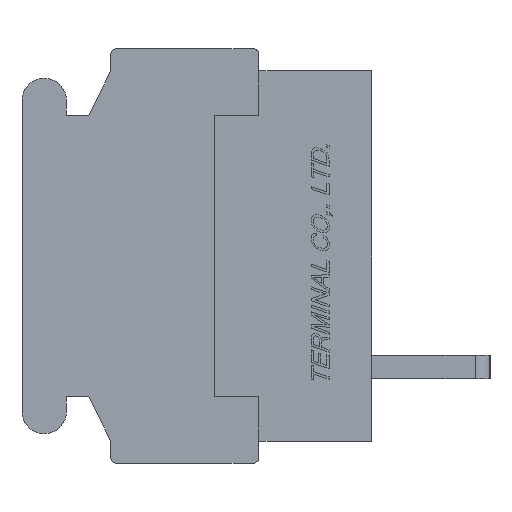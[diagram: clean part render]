
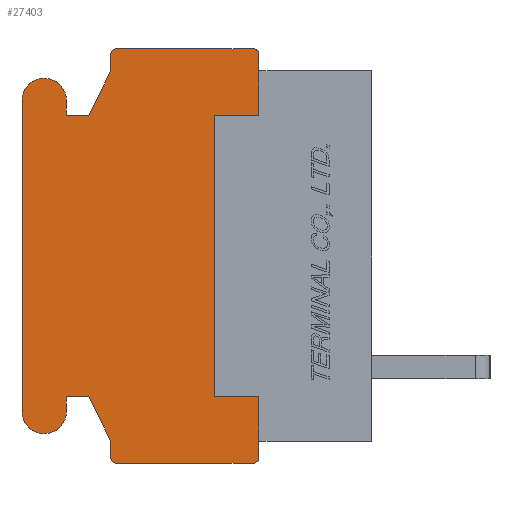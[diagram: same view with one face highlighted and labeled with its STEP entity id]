
A CAD part, left-side view. The second image highlights one B-rep face of the part: STEP entity #27403.
In plain terms, the highlighted planar face has unit normal (-1, 0, 0).
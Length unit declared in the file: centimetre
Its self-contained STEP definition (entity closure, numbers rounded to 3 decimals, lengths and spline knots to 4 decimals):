
#1448=CIRCLE('',#46495,0.02);
#1449=CIRCLE('',#46499,0.02);
#1450=CIRCLE('',#46502,0.02);
#1451=CIRCLE('',#46508,0.075);
#1452=CIRCLE('',#46511,0.075);
#1453=CIRCLE('',#46517,0.02);
#3842=VERTEX_POINT('',#43092);
#3843=VERTEX_POINT('',#43094);
#3844=VERTEX_POINT('',#43098);
#3845=VERTEX_POINT('',#43102);
#3846=VERTEX_POINT('',#43104);
#3847=VERTEX_POINT('',#43108);
#3848=VERTEX_POINT('',#43112);
#3849=VERTEX_POINT('',#43116);
#3850=VERTEX_POINT('',#43120);
#3851=VERTEX_POINT('',#43124);
#3852=VERTEX_POINT('',#43128);
#3853=VERTEX_POINT('',#43132);
#3854=VERTEX_POINT('',#43136);
#3855=VERTEX_POINT('',#43140);
#3856=VERTEX_POINT('',#43144);
#3857=VERTEX_POINT('',#43148);
#3858=VERTEX_POINT('',#43152);
#3859=VERTEX_POINT('',#43156);
#3860=VERTEX_POINT('',#43160);
#3861=VERTEX_POINT('',#43164);
#3862=VERTEX_POINT('',#43170);
#3863=VERTEX_POINT('',#43172);
#3864=VERTEX_POINT('',#43174);
#3865=VERTEX_POINT('',#43176);
#6780=VECTOR('',#33955,1.);
#6782=VECTOR('',#33958,1.);
#6786=VECTOR('',#33967,1.);
#6789=VECTOR('',#33975,1.);
#6791=VECTOR('',#33978,1.);
#6793=VECTOR('',#33981,1.);
#6795=VECTOR('',#33984,1.);
#6798=VECTOR('',#33992,1.);
#6801=VECTOR('',#34000,1.);
#6803=VECTOR('',#34003,1.);
#6805=VECTOR('',#34006,1.);
#6807=VECTOR('',#34009,1.);
#6809=VECTOR('',#34016,1.);
#6810=VECTOR('',#34018,1.);
#6811=VECTOR('',#34019,1.);
#6812=VECTOR('',#34020,1.);
#6813=VECTOR('',#34021,1.);
#6814=VECTOR('',#34022,1.);
#9796=LINE('',#43099,#6780);
#9798=LINE('',#43103,#6782);
#9802=LINE('',#43113,#6786);
#9805=LINE('',#43121,#6789);
#9807=LINE('',#43125,#6791);
#9809=LINE('',#43129,#6793);
#9811=LINE('',#43133,#6795);
#9814=LINE('',#43141,#6798);
#9817=LINE('',#43149,#6801);
#9819=LINE('',#43153,#6803);
#9821=LINE('',#43157,#6805);
#9823=LINE('',#43161,#6807);
#9825=LINE('',#43167,#6809);
#9826=LINE('',#43169,#6810);
#9827=LINE('',#43171,#6811);
#9828=LINE('',#43173,#6812);
#9829=LINE('',#43175,#6813);
#9830=LINE('',#43177,#6814);
#13850=EDGE_CURVE('',#3842,#3843,#1448,.T.);
#13853=EDGE_CURVE('',#3844,#3842,#9796,.T.);
#13855=EDGE_CURVE('',#3845,#3846,#9798,.T.);
#13858=EDGE_CURVE('',#3847,#3845,#1449,.T.);
#13860=EDGE_CURVE('',#3848,#3847,#9802,.T.);
#13862=EDGE_CURVE('',#3849,#3848,#1450,.T.);
#13864=EDGE_CURVE('',#3850,#3849,#9805,.T.);
#13866=EDGE_CURVE('',#3851,#3850,#9807,.T.);
#13868=EDGE_CURVE('',#3852,#3851,#9809,.T.);
#13870=EDGE_CURVE('',#3853,#3852,#9811,.T.);
#13872=EDGE_CURVE('',#3854,#3853,#1451,.T.);
#13874=EDGE_CURVE('',#3855,#3854,#9814,.T.);
#13876=EDGE_CURVE('',#3856,#3855,#1452,.T.);
#13878=EDGE_CURVE('',#3857,#3856,#9817,.T.);
#13880=EDGE_CURVE('',#3858,#3857,#9819,.T.);
#13882=EDGE_CURVE('',#3859,#3858,#9821,.T.);
#13884=EDGE_CURVE('',#3860,#3859,#9823,.T.);
#13886=EDGE_CURVE('',#3861,#3860,#1453,.T.);
#13887=EDGE_CURVE('',#3843,#3861,#9825,.T.);
#13888=EDGE_CURVE('',#3862,#3846,#9826,.T.);
#13889=EDGE_CURVE('',#3844,#3863,#9827,.T.);
#13890=EDGE_CURVE('',#3863,#3864,#9828,.T.);
#13891=EDGE_CURVE('',#3864,#3865,#9829,.T.);
#13892=EDGE_CURVE('',#3865,#3862,#9830,.T.);
#21604=ORIENTED_EDGE('',*,*,#13888,.T.);
#21605=ORIENTED_EDGE('',*,*,#13855,.F.);
#21606=ORIENTED_EDGE('',*,*,#13858,.F.);
#21607=ORIENTED_EDGE('',*,*,#13860,.F.);
#21608=ORIENTED_EDGE('',*,*,#13862,.F.);
#21609=ORIENTED_EDGE('',*,*,#13864,.F.);
#21610=ORIENTED_EDGE('',*,*,#13866,.F.);
#21611=ORIENTED_EDGE('',*,*,#13868,.F.);
#21612=ORIENTED_EDGE('',*,*,#13870,.F.);
#21613=ORIENTED_EDGE('',*,*,#13872,.F.);
#21614=ORIENTED_EDGE('',*,*,#13874,.F.);
#21615=ORIENTED_EDGE('',*,*,#13876,.F.);
#21616=ORIENTED_EDGE('',*,*,#13878,.F.);
#21617=ORIENTED_EDGE('',*,*,#13880,.F.);
#21618=ORIENTED_EDGE('',*,*,#13882,.F.);
#21619=ORIENTED_EDGE('',*,*,#13884,.F.);
#21620=ORIENTED_EDGE('',*,*,#13886,.F.);
#21621=ORIENTED_EDGE('',*,*,#13887,.F.);
#21622=ORIENTED_EDGE('',*,*,#13850,.F.);
#21623=ORIENTED_EDGE('',*,*,#13853,.F.);
#21624=ORIENTED_EDGE('',*,*,#13889,.T.);
#21625=ORIENTED_EDGE('',*,*,#13890,.T.);
#21626=ORIENTED_EDGE('',*,*,#13891,.T.);
#21627=ORIENTED_EDGE('',*,*,#13892,.T.);
#24169=EDGE_LOOP('',(#21604,#21605,#21606,#21607,#21608,#21609,#21610,#21611,
#21612,#21613,#21614,#21615,#21616,#21617,#21618,#21619,#21620,#21621,#21622,
#21623,#21624,#21625,#21626,#21627));
#25831=FACE_BOUND('',#24169,.T.);
#27403=ADVANCED_FACE('',(#25831),#28533,.F.);
#28533=PLANE('',#46519);
#33950=DIRECTION('',(1.,0.,0.));
#33951=DIRECTION('',(0.,0.,-0.02));
#33955=DIRECTION('',(0.,0.,-1.));
#33958=DIRECTION('',(0.,0.,-1.));
#33963=DIRECTION('',(1.,0.,0.));
#33964=DIRECTION('',(0.,0.,-0.02));
#33967=DIRECTION('',(0.,-1.,0.));
#33971=DIRECTION('',(1.,0.,0.));
#33972=DIRECTION('',(0.,0.,-0.02));
#33975=DIRECTION('',(0.,0.,1.));
#33978=DIRECTION('',(0.,-0.447,0.894));
#33981=DIRECTION('',(0.,-1.,0.));
#33984=DIRECTION('',(0.,0.,-1.));
#33988=DIRECTION('',(1.,0.,0.));
#33989=DIRECTION('',(0.,0.,-0.075));
#33992=DIRECTION('',(0.,0.,1.));
#33996=DIRECTION('',(1.,0.,0.));
#33997=DIRECTION('',(0.,0.,-0.075));
#34000=DIRECTION('',(0.,0.,-1.));
#34003=DIRECTION('',(0.,1.,0.));
#34006=DIRECTION('',(0.,0.447,0.894));
#34009=DIRECTION('',(0.,0.,1.));
#34013=DIRECTION('',(1.,0.,0.));
#34014=DIRECTION('',(0.,0.,-0.02));
#34016=DIRECTION('',(0.,1.,0.));
#34017=DIRECTION('',(1.,0.,0.));
#34018=DIRECTION('',(0.,0.,1.));
#34019=DIRECTION('',(0.,0.,1.));
#34020=DIRECTION('',(0.,1.,0.));
#34021=DIRECTION('',(0.,0.,1.));
#34022=DIRECTION('',(0.,-1.,0.));
#43092=CARTESIAN_POINT('',(-0.762,0.38,-0.68));
#43093=CARTESIAN_POINT('',(-0.762,0.4,-0.68));
#43094=CARTESIAN_POINT('',(-0.762,0.4,-0.7));
#43098=CARTESIAN_POINT('',(-0.762,0.38,-0.625));
#43099=CARTESIAN_POINT('',(-0.762,0.38,-0.625));
#43102=CARTESIAN_POINT('',(-0.762,0.38,0.68));
#43103=CARTESIAN_POINT('',(-0.762,0.38,0.68));
#43104=CARTESIAN_POINT('',(-0.762,0.38,0.625));
#43108=CARTESIAN_POINT('',(-0.762,0.4,0.7));
#43109=CARTESIAN_POINT('',(-0.762,0.4,0.68));
#43112=CARTESIAN_POINT('',(-0.762,0.86,0.7));
#43113=CARTESIAN_POINT('',(-0.762,0.86,0.7));
#43116=CARTESIAN_POINT('',(-0.762,0.88,0.68));
#43117=CARTESIAN_POINT('',(-0.762,0.86,0.68));
#43120=CARTESIAN_POINT('',(-0.762,0.88,0.625));
#43121=CARTESIAN_POINT('',(-0.762,0.88,0.625));
#43124=CARTESIAN_POINT('',(-0.762,0.955,0.475));
#43125=CARTESIAN_POINT('',(-0.762,0.955,0.475));
#43128=CARTESIAN_POINT('',(-0.762,1.03,0.475));
#43129=CARTESIAN_POINT('',(-0.762,1.03,0.475));
#43132=CARTESIAN_POINT('',(-0.762,1.03,0.525));
#43133=CARTESIAN_POINT('',(-0.762,1.03,0.525));
#43136=CARTESIAN_POINT('',(-0.762,1.18,0.525));
#43137=CARTESIAN_POINT('',(-0.762,1.105,0.525));
#43140=CARTESIAN_POINT('',(-0.762,1.18,-0.525));
#43141=CARTESIAN_POINT('',(-0.762,1.18,-0.525));
#43144=CARTESIAN_POINT('',(-0.762,1.03,-0.525));
#43145=CARTESIAN_POINT('',(-0.762,1.105,-0.525));
#43148=CARTESIAN_POINT('',(-0.762,1.03,-0.475));
#43149=CARTESIAN_POINT('',(-0.762,1.03,-0.475));
#43152=CARTESIAN_POINT('',(-0.762,0.955,-0.475));
#43153=CARTESIAN_POINT('',(-0.762,0.955,-0.475));
#43156=CARTESIAN_POINT('',(-0.762,0.88,-0.625));
#43157=CARTESIAN_POINT('',(-0.762,0.88,-0.625));
#43160=CARTESIAN_POINT('',(-0.762,0.88,-0.68));
#43161=CARTESIAN_POINT('',(-0.762,0.88,-0.68));
#43164=CARTESIAN_POINT('',(-0.762,0.86,-0.7));
#43165=CARTESIAN_POINT('',(-0.762,0.86,-0.68));
#43167=CARTESIAN_POINT('',(-0.762,0.4,-0.7));
#43168=CARTESIAN_POINT('',(-0.762,0.6059,0.));
#43169=CARTESIAN_POINT('',(-0.762,0.38,0.475));
#43170=CARTESIAN_POINT('',(-0.762,0.38,0.475));
#43171=CARTESIAN_POINT('',(-0.762,0.38,-0.625));
#43172=CARTESIAN_POINT('',(-0.762,0.38,-0.475));
#43173=CARTESIAN_POINT('',(-0.762,0.38,-0.475));
#43174=CARTESIAN_POINT('',(-0.762,0.53,-0.475));
#43175=CARTESIAN_POINT('',(-0.762,0.53,-0.475));
#43176=CARTESIAN_POINT('',(-0.762,0.53,0.475));
#43177=CARTESIAN_POINT('',(-0.762,0.53,0.475));
#46495=AXIS2_PLACEMENT_3D('',#43093,#33950,#33951);
#46499=AXIS2_PLACEMENT_3D('',#43109,#33963,#33964);
#46502=AXIS2_PLACEMENT_3D('',#43117,#33971,#33972);
#46508=AXIS2_PLACEMENT_3D('',#43137,#33988,#33989);
#46511=AXIS2_PLACEMENT_3D('',#43145,#33996,#33997);
#46517=AXIS2_PLACEMENT_3D('',#43165,#34013,#34014);
#46519=AXIS2_PLACEMENT_3D('',#43168,#34017,$);
